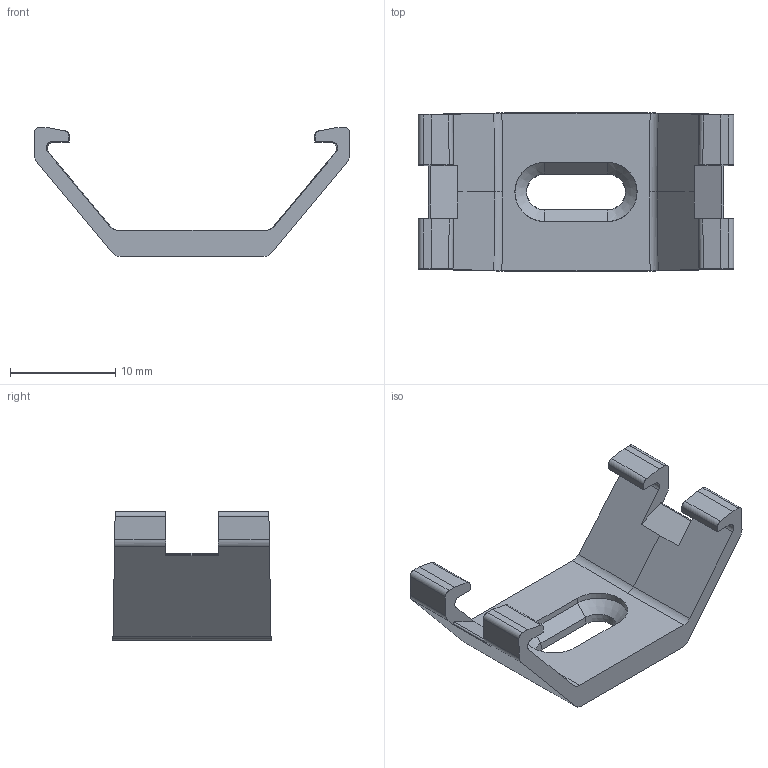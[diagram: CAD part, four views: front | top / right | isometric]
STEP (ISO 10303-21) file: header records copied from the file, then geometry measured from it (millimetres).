
FILE_DESCRIPTION(/* description */ (''),/* implementation_level */ '2;1');
FILE_NAME(/* name */ 'SOLID30 Klemme.step',/* time_stamp */ '2026-05-27T11:32:42+02:00',/* author */ (''),/* organization */ (''),/* preprocessor_version */ 'ST-DEVELOPER v20.1',/* originating_system */ 'Autodesk Translation Framework v15.8.0.0',/* authorisation */ '');
FILE_SCHEMA (('AUTOMOTIVE_DESIGN { 1 0 10303 214 3 1 1 }'));
Length unit declared in the file: millimetre
Products named in the file (1): 2026-05-27-11-32-42-026
Bounding box: 29.98 x 15.02 x 12.25 mm (x, y, z)
Volume: 988.4 mm3; surface area: 1431.6 mm2
Topology: 1 solids, 1 shells, 78 faces, 214 edges, 138 vertices
Faces by surface type: plane 46, cylinder 26, cone 6
Entity records: 2544 total; most frequent: CARTESIAN_POINT 473, ORIENTED_EDGE 428, DIRECTION 426, EDGE_CURVE 214, LINE 156, VECTOR 156, VERTEX_POINT 138, AXIS2_PLACEMENT_3D 135
